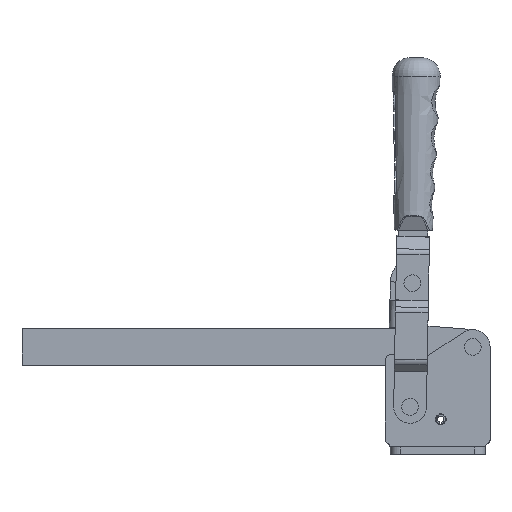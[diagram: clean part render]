
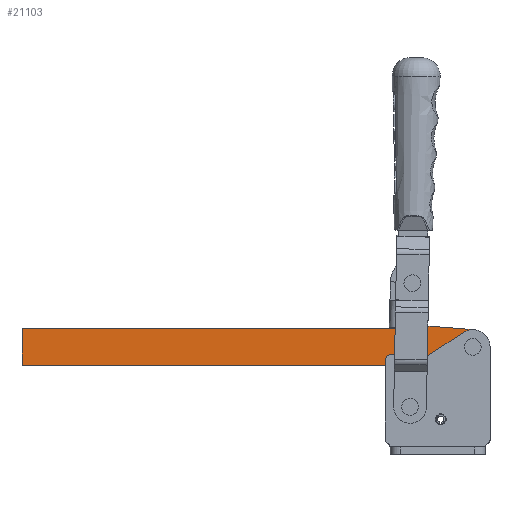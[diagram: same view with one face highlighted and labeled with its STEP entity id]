
A CAD part, top view. The second image highlights one B-rep face of the part: STEP entity #21103.
In plain terms, the highlighted planar face has unit normal (0, 0, 1).
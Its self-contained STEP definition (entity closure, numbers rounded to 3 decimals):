
#385 = CARTESIAN_POINT ( 'NONE',  ( -39., 0., 0. ) ) ;
#451 = VERTEX_POINT ( 'NONE', #19507 ) ;
#520 = CARTESIAN_POINT ( 'NONE',  ( -30., 10., 0. ) ) ;
#566 = CARTESIAN_POINT ( 'NONE',  ( -248., 10., 0. ) ) ;
#865 = DIRECTION ( 'NONE',  ( 0., 0., -1. ) ) ;
#1080 = EDGE_CURVE ( 'NONE', #7484, #6108, #20373, .T. ) ;
#1233 = AXIS2_PLACEMENT_3D ( 'NONE', #4020, #11278, #22286 ) ;
#1532 = CARTESIAN_POINT ( 'NONE',  ( -26.938, 10.705, 0. ) ) ;
#1644 = CARTESIAN_POINT ( 'NONE',  ( -30., -10., 0. ) ) ;
#1738 = CARTESIAN_POINT ( 'NONE',  ( 0.754, 9.47, 0. ) ) ;
#2093 = ORIENTED_EDGE ( 'NONE', *, *, #14629, .T. ) ;
#2514 = VERTEX_POINT ( 'NONE', #520 ) ;
#2533 = CIRCLE ( 'NONE', #6363, 5. ) ;
#2628 = CARTESIAN_POINT ( 'NONE',  ( -30., -17., 0. ) ) ;
#2644 = DIRECTION ( 'NONE',  ( 0., 0., 1. ) ) ;
#2962 = ORIENTED_EDGE ( 'NONE', *, *, #16425, .F. ) ;
#3427 = VERTEX_POINT ( 'NONE', #1738 ) ;
#3535 = CARTESIAN_POINT ( 'NONE',  ( -26.938, -10.705, 0. ) ) ;
#3798 = EDGE_CURVE ( 'NONE', #14006, #13921, #14861, .T. ) ;
#4005 = ORIENTED_EDGE ( 'NONE', *, *, #1080, .T. ) ;
#4020 = CARTESIAN_POINT ( 'NONE',  ( -34., 0., 0. ) ) ;
#4088 = EDGE_CURVE ( 'NONE', #21504, #11026, #17493, .T. ) ;
#4393 = VECTOR ( 'NONE', #21846, 1000. ) ;
#4752 = VERTEX_POINT ( 'NONE', #1532 ) ;
#5100 = AXIS2_PLACEMENT_3D ( 'NONE', #16740, #20443, #11423 ) ;
#5212 = DIRECTION ( 'NONE',  ( 0., 0., 1. ) ) ;
#5460 = EDGE_CURVE ( 'NONE', #451, #4752, #10074, .T. ) ;
#5727 = EDGE_CURVE ( 'NONE', #2514, #22381, #22188, .T. ) ;
#5799 = AXIS2_PLACEMENT_3D ( 'NONE', #21183, #12309, #12193 ) ;
#5857 = VERTEX_POINT ( 'NONE', #19345 ) ;
#5898 = LINE ( 'NONE', #19325, #11340 ) ;
#6078 = DIRECTION ( 'NONE',  ( -1., 0., 0. ) ) ;
#6108 = VERTEX_POINT ( 'NONE', #3535 ) ;
#6123 = AXIS2_PLACEMENT_3D ( 'NONE', #23340, #5212, #6987 ) ;
#6363 = AXIS2_PLACEMENT_3D ( 'NONE', #20376, #7329, #16447 ) ;
#6586 = CARTESIAN_POINT ( 'NONE',  ( 0., 0., 0. ) ) ;
#6739 = CARTESIAN_POINT ( 'NONE',  ( -29., 0., 0. ) ) ;
#6751 = EDGE_LOOP ( 'NONE', ( #12682, #9845, #4005, #19227, #20490, #17016, #19851, #17737, #8737, #2093, #18128 ) ) ;
#6904 = LINE ( 'NONE', #17820, #22514 ) ;
#6987 = DIRECTION ( 'NONE',  ( 1., 0., 0. ) ) ;
#7329 = DIRECTION ( 'NONE',  ( 0., 0., 1. ) ) ;
#7484 = VERTEX_POINT ( 'NONE', #1644 ) ;
#7994 = DIRECTION ( 'NONE',  ( 1., 0., 0. ) ) ;
#8128 = VERTEX_POINT ( 'NONE', #14816 ) ;
#8737 = ORIENTED_EDGE ( 'NONE', *, *, #5460, .T. ) ;
#9531 = PLANE ( 'NONE',  #13756 ) ;
#9696 = AXIS2_PLACEMENT_3D ( 'NONE', #11812, #2644, #19163 ) ;
#9719 = CARTESIAN_POINT ( 'NONE',  ( -23.877, -4.41, 0. ) ) ;
#9845 = ORIENTED_EDGE ( 'NONE', *, *, #14415, .T. ) ;
#9921 = AXIS2_PLACEMENT_3D ( 'NONE', #15246, #22348, #22104 ) ;
#9950 = DIRECTION ( 'NONE',  ( 1., 0., 0. ) ) ;
#10074 = CIRCLE ( 'NONE', #9696, 7. ) ;
#11026 = VERTEX_POINT ( 'NONE', #22272 ) ;
#11278 = DIRECTION ( 'NONE',  ( 0., 0., 1. ) ) ;
#11295 = CIRCLE ( 'NONE', #20389, 7. ) ;
#11340 = VECTOR ( 'NONE', #22621, 1000. ) ;
#11423 = DIRECTION ( 'NONE',  ( -1., 0., 0. ) ) ;
#11565 = FACE_BOUND ( 'NONE', #13680, .T. ) ;
#11812 = CARTESIAN_POINT ( 'NONE',  ( -23.877, 4.41, 0. ) ) ;
#12125 = EDGE_CURVE ( 'NONE', #5857, #19952, #5898, .T. ) ;
#12193 = DIRECTION ( 'NONE',  ( 1., 0., 0. ) ) ;
#12309 = DIRECTION ( 'NONE',  ( 0., 0., 1. ) ) ;
#12653 = VERTEX_POINT ( 'NONE', #15955 ) ;
#12682 = ORIENTED_EDGE ( 'NONE', *, *, #20180, .T. ) ;
#13143 = EDGE_LOOP ( 'NONE', ( #21706, #14587 ) ) ;
#13160 = DIRECTION ( 'NONE',  ( 0., 0., 1. ) ) ;
#13335 = CARTESIAN_POINT ( 'NONE',  ( -30., -17., 0. ) ) ;
#13340 = CIRCLE ( 'NONE', #9921, 9.5 ) ;
#13482 = CIRCLE ( 'NONE', #22546, 9.5 ) ;
#13596 = DIRECTION ( 'NONE',  ( 0., 0., 1. ) ) ;
#13680 = EDGE_LOOP ( 'NONE', ( #2962, #18217 ) ) ;
#13756 = AXIS2_PLACEMENT_3D ( 'NONE', #13335, #16998, #7994 ) ;
#13916 = DIRECTION ( 'NONE',  ( -0.997, 0.079, 0. ) ) ;
#13921 = VERTEX_POINT ( 'NONE', #6739 ) ;
#13944 = DIRECTION ( 'NONE',  ( 1., 0., 0. ) ) ;
#14006 = VERTEX_POINT ( 'NONE', #385 ) ;
#14308 = VECTOR ( 'NONE', #6078, 1000. ) ;
#14415 = EDGE_CURVE ( 'NONE', #12653, #7484, #21614, .T. ) ;
#14587 = ORIENTED_EDGE ( 'NONE', *, *, #3798, .F. ) ;
#14629 = EDGE_CURVE ( 'NONE', #4752, #2514, #19904, .T. ) ;
#14630 = CARTESIAN_POINT ( 'NONE',  ( -248., 10., 0. ) ) ;
#14682 = AXIS2_PLACEMENT_3D ( 'NONE', #2628, #865, #15580 ) ;
#14700 = EDGE_CURVE ( 'NONE', #3427, #451, #6904, .T. ) ;
#14816 = CARTESIAN_POINT ( 'NONE',  ( 9.5, 0., 0. ) ) ;
#14861 = CIRCLE ( 'NONE', #1233, 5. ) ;
#15246 = CARTESIAN_POINT ( 'NONE',  ( 0., 0., 0. ) ) ;
#15580 = DIRECTION ( 'NONE',  ( 1., 0., 0. ) ) ;
#15955 = CARTESIAN_POINT ( 'NONE',  ( -248., -10., 0. ) ) ;
#16425 = EDGE_CURVE ( 'NONE', #11026, #21504, #19841, .T. ) ;
#16447 = DIRECTION ( 'NONE',  ( 1., 0., 0. ) ) ;
#16635 = FACE_OUTER_BOUND ( 'NONE', #6751, .T. ) ;
#16676 = LINE ( 'NONE', #22620, #17092 ) ;
#16740 = CARTESIAN_POINT ( 'NONE',  ( -30., 17., 0. ) ) ;
#16998 = DIRECTION ( 'NONE',  ( 0., 0., 1. ) ) ;
#17016 = ORIENTED_EDGE ( 'NONE', *, *, #19509, .T. ) ;
#17092 = VECTOR ( 'NONE', #18472, 1000. ) ;
#17493 = CIRCLE ( 'NONE', #6123, 5. ) ;
#17737 = ORIENTED_EDGE ( 'NONE', *, *, #14700, .T. ) ;
#17820 = CARTESIAN_POINT ( 'NONE',  ( -23.321, 11.388, 0. ) ) ;
#18128 = ORIENTED_EDGE ( 'NONE', *, *, #5727, .T. ) ;
#18217 = ORIENTED_EDGE ( 'NONE', *, *, #4088, .F. ) ;
#18472 = DIRECTION ( 'NONE',  ( 0., -1., 0. ) ) ;
#19163 = DIRECTION ( 'NONE',  ( -1., 0., 0. ) ) ;
#19227 = ORIENTED_EDGE ( 'NONE', *, *, #21557, .T. ) ;
#19325 = CARTESIAN_POINT ( 'NONE',  ( -23.321, -11.388, 0. ) ) ;
#19345 = CARTESIAN_POINT ( 'NONE',  ( -23.321, -11.388, 0. ) ) ;
#19507 = CARTESIAN_POINT ( 'NONE',  ( -23.321, 11.388, 0. ) ) ;
#19509 = EDGE_CURVE ( 'NONE', #19952, #8128, #13482, .T. ) ;
#19841 = CIRCLE ( 'NONE', #5799, 5. ) ;
#19851 = ORIENTED_EDGE ( 'NONE', *, *, #20487, .T. ) ;
#19904 = CIRCLE ( 'NONE', #5100, 7. ) ;
#19952 = VERTEX_POINT ( 'NONE', #21794 ) ;
#20180 = EDGE_CURVE ( 'NONE', #22381, #12653, #16676, .T. ) ;
#20190 = CARTESIAN_POINT ( 'NONE',  ( -248., -10., 0. ) ) ;
#20373 = CIRCLE ( 'NONE', #14682, 7. ) ;
#20376 = CARTESIAN_POINT ( 'NONE',  ( -34., 0., 0. ) ) ;
#20389 = AXIS2_PLACEMENT_3D ( 'NONE', #9719, #13160, #9950 ) ;
#20443 = DIRECTION ( 'NONE',  ( 0., 0., -1. ) ) ;
#20487 = EDGE_CURVE ( 'NONE', #8128, #3427, #13340, .T. ) ;
#20490 = ORIENTED_EDGE ( 'NONE', *, *, #12125, .T. ) ;
#20509 = CARTESIAN_POINT ( 'NONE',  ( -5., 0., 0. ) ) ;
#21103 = ADVANCED_FACE ( 'NONE', ( #22200, #11565, #16635 ), #9531, .T. ) ;
#21183 = CARTESIAN_POINT ( 'NONE',  ( 0., 0., 0. ) ) ;
#21504 = VERTEX_POINT ( 'NONE', #20509 ) ;
#21557 = EDGE_CURVE ( 'NONE', #6108, #5857, #11295, .T. ) ;
#21614 = LINE ( 'NONE', #20190, #4393 ) ;
#21706 = ORIENTED_EDGE ( 'NONE', *, *, #23233, .F. ) ;
#21794 = CARTESIAN_POINT ( 'NONE',  ( 0.754, -9.47, 0. ) ) ;
#21846 = DIRECTION ( 'NONE',  ( 1., 0., 0. ) ) ;
#22104 = DIRECTION ( 'NONE',  ( 1., 0., 0. ) ) ;
#22188 = LINE ( 'NONE', #14630, #14308 ) ;
#22200 = FACE_BOUND ( 'NONE', #13143, .T. ) ;
#22272 = CARTESIAN_POINT ( 'NONE',  ( 5., 0., 0. ) ) ;
#22286 = DIRECTION ( 'NONE',  ( 1., 0., 0. ) ) ;
#22348 = DIRECTION ( 'NONE',  ( 0., 0., 1. ) ) ;
#22381 = VERTEX_POINT ( 'NONE', #566 ) ;
#22514 = VECTOR ( 'NONE', #13916, 1000. ) ;
#22546 = AXIS2_PLACEMENT_3D ( 'NONE', #6586, #13596, #13944 ) ;
#22620 = CARTESIAN_POINT ( 'NONE',  ( -248., 10., 0. ) ) ;
#22621 = DIRECTION ( 'NONE',  ( 0.997, 0.079, 0. ) ) ;
#23233 = EDGE_CURVE ( 'NONE', #13921, #14006, #2533, .T. ) ;
#23340 = CARTESIAN_POINT ( 'NONE',  ( 0., 0., 0. ) ) ;
